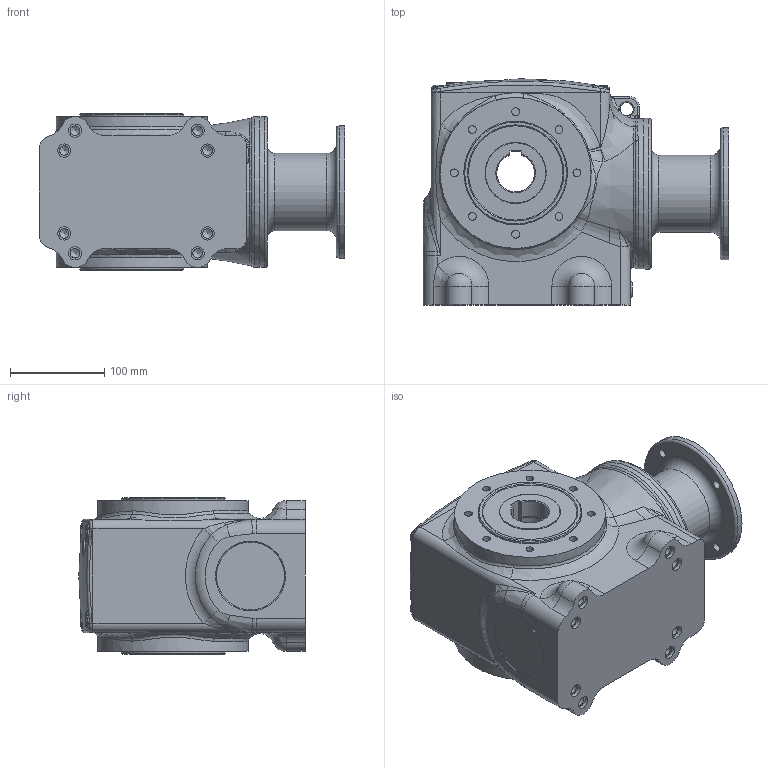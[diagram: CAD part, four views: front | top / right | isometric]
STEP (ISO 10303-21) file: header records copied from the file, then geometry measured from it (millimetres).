
FILE_DESCRIPTION(/* description */ (''),/* implementation_level */ '2;1');
FILE_NAME(/* name */ 'Z:\Dertec\RVS pakket tekeningen\Kasten\FSA + FS serie\FS\FS68\Step Customer\FS68 HA40 AMFL 90B14A #.stp',/* time_stamp */ '2017-12-08T11:19:15+01:00',/* author */ ('Dertec'),/* organization */ (''),/* preprocessor_version */ 'ST-DEVELOPER v16.1',/* originating_system */ 'Autodesk Inventor 2016',/* authorisation */ '');
FILE_SCHEMA (('AUTOMOTIVE_DESIGN { 1 0 10303 214 3 1 1 }'));
Length unit declared in the file: inch
Products named in the file (1): Part40
Bounding box: 324 x 240 x 166 mm (x, y, z)
Volume: 6563562.3 mm3; surface area: 489131.7 mm2
Topology: 1 solids, 5 shells, 542 faces, 1215 edges, 749 vertices
Faces by surface type: cylinder 169, plane 148, bspline 124, cone 48, torus 47, sphere 6
Full cylindrical faces by diameter (mm): 4.134 x8, 5.5 x8, 6.647 x4, 8.376 x16, 8.917 x1, 9 x8, 10.106 x8, 11 x8, 14 x9, 46 x1, 47 x1, 64.9 x3, 65 x2, 66 x1, 68 x2, 68.4 x1, 69 x1, 71 x1, 72 x2, 74.3 x1, 82 x1, 95 x1, 99 x1, 100 x4, 102 x1, 103.5 x2, 110 x2, 116 x1, 119 x1, 140 x1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
Entity records: 21357 total; most frequent: CARTESIAN_POINT 10306, DIRECTION 2050, ORIENTED_EDGE 1986, EDGE_CURVE 993, AXIS2_PLACEMENT_3D 925, EDGE_LOOP 792, VERTEX_POINT 693, FACE_OUTER_BOUND 542
